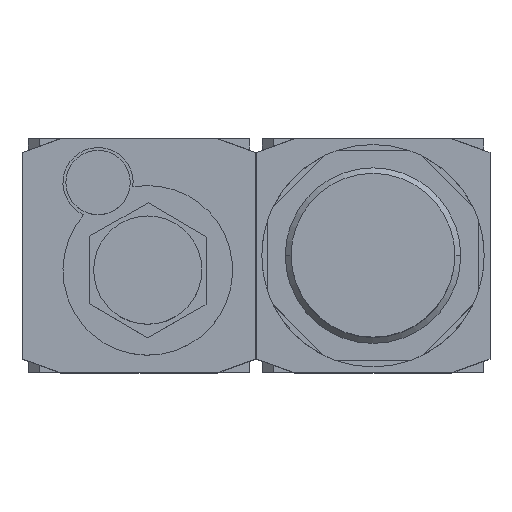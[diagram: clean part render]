
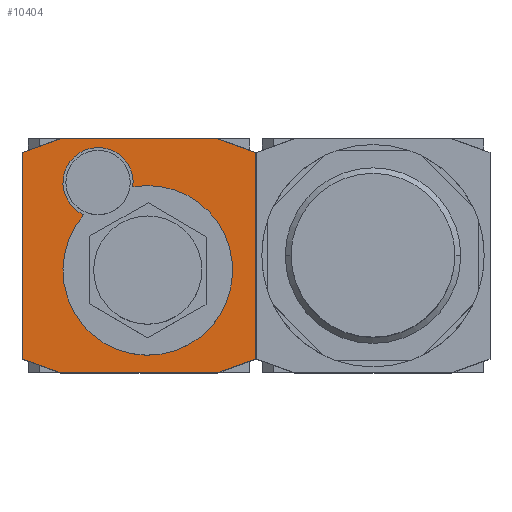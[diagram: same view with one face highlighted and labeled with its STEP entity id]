
A CAD part, top view. The second image highlights one B-rep face of the part: STEP entity #10404.
In plain terms, the highlighted planar face has unit normal (0, 0, 1).
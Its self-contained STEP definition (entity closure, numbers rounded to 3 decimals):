
#9235=CARTESIAN_POINT('',(-12.956,13.225,34.0));
#9236=VERTEX_POINT('',#9235);
#9245=CARTESIAN_POINT('',(-9.439,7.018,34.0));
#9246=VERTEX_POINT('',#9245);
#9247=CARTESIAN_POINT('',(-7.,12.5,34.0));
#9248=DIRECTION('',(0.0,0.0,-1.));
#9249=DIRECTION('',(-0.993,0.121,0.0));
#9250=AXIS2_PLACEMENT_3D('',#9247,#9248,#9249);
#9251=CIRCLE('',#9250,6.);
#9252=EDGE_CURVE('',#9246,#9236,#9251,.T.);
#9277=CARTESIAN_POINT('',(12.439,-12.018,34.0));
#9278=VERTEX_POINT('',#9277);
#9287=CARTESIAN_POINT('',(-1.044,11.775,34.0));
#9288=VERTEX_POINT('',#9287);
#9289=CARTESIAN_POINT('',(1.5,-2.5,34.0));
#9290=DIRECTION('',(0.0,0.0,-1.0));
#9291=DIRECTION('',(0.754,-0.656,0.0));
#9292=AXIS2_PLACEMENT_3D('',#9289,#9290,#9291);
#9293=CIRCLE('',#9292,14.5);
#9294=EDGE_CURVE('',#9288,#9278,#9293,.T.);
#10315=CARTESIAN_POINT('',(0.,0.,34.0));
#10316=DIRECTION('',(0.0,0.0,1.0));
#10317=DIRECTION('',(1.0,0.0,0.0));
#10318=AXIS2_PLACEMENT_3D('',#10315,#10316,#10317);
#10319=PLANE('',#10318);
#10320=CARTESIAN_POINT('',(-13.5,-20.0,34.0));
#10321=VERTEX_POINT('',#10320);
#10322=CARTESIAN_POINT('',(-20.0,-17.634,34.0));
#10323=VERTEX_POINT('',#10322);
#10324=CARTESIAN_POINT('',(-13.5,-20.0,34.0));
#10325=DIRECTION('',(-0.94,0.342,0.0));
#10326=VECTOR('',#10325,6.917);
#10327=LINE('',#10324,#10326);
#10328=EDGE_CURVE('',#10321,#10323,#10327,.T.);
#10329=ORIENTED_EDGE('',*,*,#10328,.F.);
#10330=CARTESIAN_POINT('',(13.5,-20.0,34.0));
#10331=VERTEX_POINT('',#10330);
#10332=CARTESIAN_POINT('',(13.5,-20.0,34.0));
#10333=DIRECTION('',(-1.0,0.0,0.0));
#10334=VECTOR('',#10333,27.);
#10335=LINE('',#10332,#10334);
#10336=EDGE_CURVE('',#10331,#10321,#10335,.T.);
#10337=ORIENTED_EDGE('',*,*,#10336,.F.);
#10338=CARTESIAN_POINT('',(20.0,-17.634,34.0));
#10339=VERTEX_POINT('',#10338);
#10340=CARTESIAN_POINT('',(20.0,-17.634,34.0));
#10341=DIRECTION('',(-0.94,-0.342,0.0));
#10342=VECTOR('',#10341,6.917);
#10343=LINE('',#10340,#10342);
#10344=EDGE_CURVE('',#10339,#10331,#10343,.T.);
#10345=ORIENTED_EDGE('',*,*,#10344,.F.);
#10346=CARTESIAN_POINT('',(20.0,17.634,34.0));
#10347=VERTEX_POINT('',#10346);
#10348=CARTESIAN_POINT('',(20.0,17.634,34.0));
#10349=DIRECTION('',(0.0,-1.0,0.0));
#10350=VECTOR('',#10349,35.268);
#10351=LINE('',#10348,#10350);
#10352=EDGE_CURVE('',#10347,#10339,#10351,.T.);
#10353=ORIENTED_EDGE('',*,*,#10352,.F.);
#10354=CARTESIAN_POINT('',(13.5,20.0,34.0));
#10355=VERTEX_POINT('',#10354);
#10356=CARTESIAN_POINT('',(13.5,20.0,34.0));
#10357=DIRECTION('',(0.94,-0.342,0.0));
#10358=VECTOR('',#10357,6.917);
#10359=LINE('',#10356,#10358);
#10360=EDGE_CURVE('',#10355,#10347,#10359,.T.);
#10361=ORIENTED_EDGE('',*,*,#10360,.F.);
#10362=CARTESIAN_POINT('',(-13.5,20.0,34.0));
#10363=VERTEX_POINT('',#10362);
#10364=CARTESIAN_POINT('',(-13.5,20.0,34.0));
#10365=DIRECTION('',(1.0,0.0,0.0));
#10366=VECTOR('',#10365,27.);
#10367=LINE('',#10364,#10366);
#10368=EDGE_CURVE('',#10363,#10355,#10367,.T.);
#10369=ORIENTED_EDGE('',*,*,#10368,.F.);
#10370=CARTESIAN_POINT('',(-20.0,17.634,34.0));
#10371=VERTEX_POINT('',#10370);
#10372=CARTESIAN_POINT('',(-20.0,17.634,34.0));
#10373=DIRECTION('',(0.94,0.342,0.0));
#10374=VECTOR('',#10373,6.917);
#10375=LINE('',#10372,#10374);
#10376=EDGE_CURVE('',#10371,#10363,#10375,.T.);
#10377=ORIENTED_EDGE('',*,*,#10376,.F.);
#10378=CARTESIAN_POINT('',(-20.0,-17.634,34.0));
#10379=DIRECTION('',(0.0,1.0,0.0));
#10380=VECTOR('',#10379,35.268);
#10381=LINE('',#10378,#10380);
#10382=EDGE_CURVE('',#10323,#10371,#10381,.T.);
#10383=ORIENTED_EDGE('',*,*,#10382,.F.);
#10384=EDGE_LOOP('',(#10329,#10337,#10345,#10353,#10361,#10369,#10377,#10383));
#10385=FACE_OUTER_BOUND('',#10384,.T.);
#10386=ORIENTED_EDGE('',*,*,#9252,.T.);
#10387=CARTESIAN_POINT('',(-7.,12.5,34.0));
#10388=DIRECTION('',(0.0,0.0,-1.));
#10389=DIRECTION('',(-0.993,0.121,0.0));
#10390=AXIS2_PLACEMENT_3D('',#10387,#10388,#10389);
#10391=CIRCLE('',#10390,6.);
#10392=EDGE_CURVE('',#9236,#9288,#10391,.T.);
#10393=ORIENTED_EDGE('',*,*,#10392,.T.);
#10394=ORIENTED_EDGE('',*,*,#9294,.T.);
#10395=CARTESIAN_POINT('',(1.5,-2.5,34.0));
#10396=DIRECTION('',(0.0,0.0,-1.0));
#10397=DIRECTION('',(0.754,-0.656,0.0));
#10398=AXIS2_PLACEMENT_3D('',#10395,#10396,#10397);
#10399=CIRCLE('',#10398,14.5);
#10400=EDGE_CURVE('',#9278,#9246,#10399,.T.);
#10401=ORIENTED_EDGE('',*,*,#10400,.T.);
#10402=EDGE_LOOP('',(#10386,#10393,#10394,#10401));
#10403=FACE_BOUND('',#10402,.T.);
#10404=ADVANCED_FACE('',(#10385,#10403),#10319,.T.);
